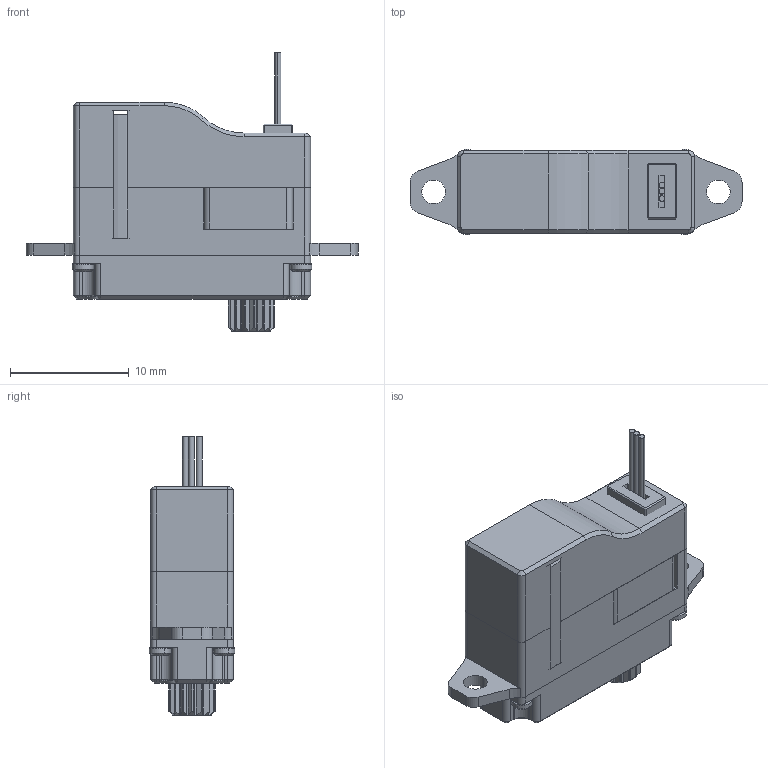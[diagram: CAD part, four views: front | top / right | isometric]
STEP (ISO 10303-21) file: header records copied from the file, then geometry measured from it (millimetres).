
FILE_DESCRIPTION (( 'STEP AP214' ), '1' );
FILE_NAME ('X06_20200818_DM.STEP', '2020-08-18T06:49:07', ( '微软用户' ), ( '微软中国' ), 'SwSTEP 2.0', 'SolidWorks 2016', '' );
FILE_SCHEMA (( 'AUTOMOTIVE_DESIGN' ));
Length unit declared in the file: millimetre
Products named in the file (2): X06_20200818_DM
Bounding box: 28 x 7.2 x 23.45 mm (x, y, z)
Surface area: 1841.8 mm2 (no closed solid volume)
Topology: 0 solids, 15 shells, 335 faces, 1005 edges, 687 vertices
Faces by surface type: plane 181, cylinder 100, cone 46, torus 8
Entity records: 15076 total; most frequent: CARTESIAN_POINT 2182, DIRECTION 1970, ORIENTED_EDGE 1801, EDGE_CURVE 1005, VERTEX_POINT 687, AXIS2_PLACEMENT_3D 679, LINE 612, VECTOR 612
